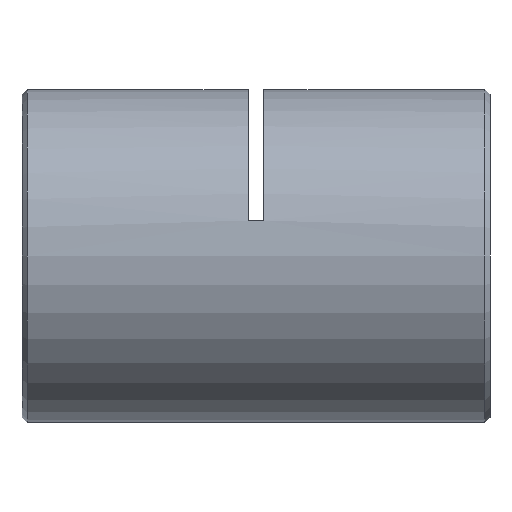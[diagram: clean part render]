
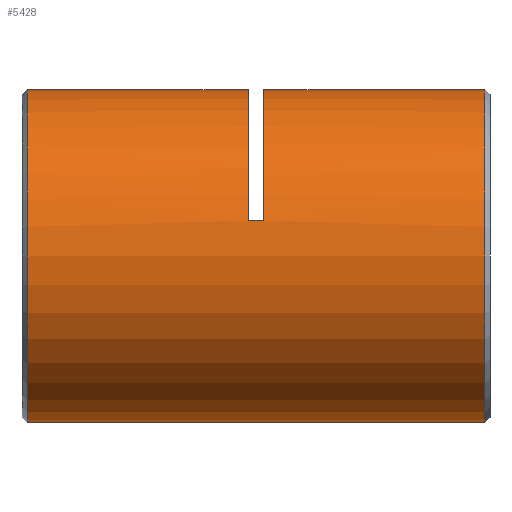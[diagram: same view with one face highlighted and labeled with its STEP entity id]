
A CAD part, left-side view. The second image highlights one B-rep face of the part: STEP entity #5428.
In plain terms, the highlighted cylindrical face has radius 16 mm (diameter 32 mm), a partial arc.
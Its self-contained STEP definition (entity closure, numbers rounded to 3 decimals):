
#31 = VERTEX_POINT ( 'NONE', #5369 ) ;
#38 = CARTESIAN_POINT ( 'NONE',  ( 0., 44.75, 0. ) ) ;
#57 = VERTEX_POINT ( 'NONE', #2214 ) ;
#106 = DIRECTION ( 'NONE',  ( 0., 0., -1. ) ) ;
#144 = CARTESIAN_POINT ( 'NONE',  ( -15.632, 23.5, 3.413 ) ) ;
#223 = VECTOR ( 'NONE', #6097, 1000. ) ;
#499 = EDGE_CURVE ( 'NONE', #6284, #5640, #6364, .T. ) ;
#673 = EDGE_CURVE ( 'NONE', #831, #938, #6344, .T. ) ;
#753 = VERTEX_POINT ( 'NONE', #1834 ) ;
#776 = EDGE_CURVE ( 'NONE', #2945, #57, #5759, .T. ) ;
#795 = ORIENTED_EDGE ( 'NONE', *, *, #5561, .T. ) ;
#800 = DIRECTION ( 'NONE',  ( 0., 1., 0. ) ) ;
#831 = VERTEX_POINT ( 'NONE', #6325 ) ;
#938 = VERTEX_POINT ( 'NONE', #2340 ) ;
#1188 = CARTESIAN_POINT ( 'NONE',  ( 0., 0., 16. ) ) ;
#1248 = LINE ( 'NONE', #1188, #223 ) ;
#1318 = AXIS2_PLACEMENT_3D ( 'NONE', #4186, #1728, #3073 ) ;
#1340 = AXIS2_PLACEMENT_3D ( 'NONE', #38, #3578, #106 ) ;
#1346 = CARTESIAN_POINT ( 'NONE',  ( 0., 23.5, 16. ) ) ;
#1468 = AXIS2_PLACEMENT_3D ( 'NONE', #5705, #800, #5238 ) ;
#1653 = DIRECTION ( 'NONE',  ( 0., 0., 1. ) ) ;
#1657 = DIRECTION ( 'NONE',  ( 0., 1., 0. ) ) ;
#1728 = DIRECTION ( 'NONE',  ( 0., 1., 0. ) ) ;
#1729 = ORIENTED_EDGE ( 'NONE', *, *, #2037, .T. ) ;
#1733 = CIRCLE ( 'NONE', #1340, 16. ) ;
#1796 = ORIENTED_EDGE ( 'NONE', *, *, #776, .F. ) ;
#1834 = CARTESIAN_POINT ( 'NONE',  ( 0., 44.75, 16. ) ) ;
#1908 = ORIENTED_EDGE ( 'NONE', *, *, #3585, .T. ) ;
#1917 = CARTESIAN_POINT ( 'NONE',  ( 0., 0., -16. ) ) ;
#2037 = EDGE_CURVE ( 'NONE', #753, #938, #1733, .T. ) ;
#2214 = CARTESIAN_POINT ( 'NONE',  ( 0., 22., 16. ) ) ;
#2328 = CARTESIAN_POINT ( 'NONE',  ( 0., 22., 0. ) ) ;
#2340 = CARTESIAN_POINT ( 'NONE',  ( 0., 44.75, -16. ) ) ;
#2610 = ORIENTED_EDGE ( 'NONE', *, *, #673, .F. ) ;
#2804 = VECTOR ( 'NONE', #1657, 1000. ) ;
#2870 = VECTOR ( 'NONE', #5859, 1000. ) ;
#2945 = VERTEX_POINT ( 'NONE', #5728 ) ;
#3073 = DIRECTION ( 'NONE',  ( 0., 0., 1. ) ) ;
#3119 = FACE_OUTER_BOUND ( 'NONE', #5851, .T. ) ;
#3181 = DIRECTION ( 'NONE',  ( 0., 1., 0. ) ) ;
#3391 = EDGE_CURVE ( 'NONE', #31, #57, #3958, .T. ) ;
#3434 = CIRCLE ( 'NONE', #1468, 16. ) ;
#3545 = EDGE_CURVE ( 'NONE', #5640, #753, #1248, .T. ) ;
#3578 = DIRECTION ( 'NONE',  ( 0., -1., 0. ) ) ;
#3585 = EDGE_CURVE ( 'NONE', #2945, #6284, #5711, .T. ) ;
#3588 = ORIENTED_EDGE ( 'NONE', *, *, #499, .T. ) ;
#3639 = CARTESIAN_POINT ( 'NONE',  ( -15.632, 22.75, 3.413 ) ) ;
#3958 = LINE ( 'NONE', #5549, #6113 ) ;
#4186 = CARTESIAN_POINT ( 'NONE',  ( 0., 23.5, 0. ) ) ;
#4258 = AXIS2_PLACEMENT_3D ( 'NONE', #5140, #3181, #1653 ) ;
#4281 = ORIENTED_EDGE ( 'NONE', *, *, #3545, .T. ) ;
#4420 = DIRECTION ( 'NONE',  ( 0., 1., 0. ) ) ;
#4617 = AXIS2_PLACEMENT_3D ( 'NONE', #2328, #4420, #5817 ) ;
#4759 = ORIENTED_EDGE ( 'NONE', *, *, #3391, .T. ) ;
#5140 = CARTESIAN_POINT ( 'NONE',  ( 0., 0., 0. ) ) ;
#5238 = DIRECTION ( 'NONE',  ( 0., 0., 1. ) ) ;
#5369 = CARTESIAN_POINT ( 'NONE',  ( 0., 0.75, 16. ) ) ;
#5428 = ADVANCED_FACE ( 'NONE', ( #3119 ), #5610, .T. ) ;
#5549 = CARTESIAN_POINT ( 'NONE',  ( 0., 0., 16. ) ) ;
#5561 = EDGE_CURVE ( 'NONE', #831, #31, #3434, .T. ) ;
#5610 = CYLINDRICAL_SURFACE ( 'NONE', #4258, 16. ) ;
#5640 = VERTEX_POINT ( 'NONE', #1346 ) ;
#5705 = CARTESIAN_POINT ( 'NONE',  ( 0., 0.75, 0. ) ) ;
#5711 = LINE ( 'NONE', #3639, #2804 ) ;
#5728 = CARTESIAN_POINT ( 'NONE',  ( -15.632, 22., 3.413 ) ) ;
#5759 = CIRCLE ( 'NONE', #4617, 16. ) ;
#5817 = DIRECTION ( 'NONE',  ( 0., 0., 1. ) ) ;
#5851 = EDGE_LOOP ( 'NONE', ( #2610, #795, #4759, #1796, #1908, #3588, #4281, #1729 ) ) ;
#5859 = DIRECTION ( 'NONE',  ( 0., 1., 0. ) ) ;
#6063 = DIRECTION ( 'NONE',  ( 0., 1., 0. ) ) ;
#6097 = DIRECTION ( 'NONE',  ( 0., 1., 0. ) ) ;
#6113 = VECTOR ( 'NONE', #6063, 1000. ) ;
#6284 = VERTEX_POINT ( 'NONE', #144 ) ;
#6325 = CARTESIAN_POINT ( 'NONE',  ( 0., 0.75, -16. ) ) ;
#6344 = LINE ( 'NONE', #1917, #2870 ) ;
#6364 = CIRCLE ( 'NONE', #1318, 16. ) ;
